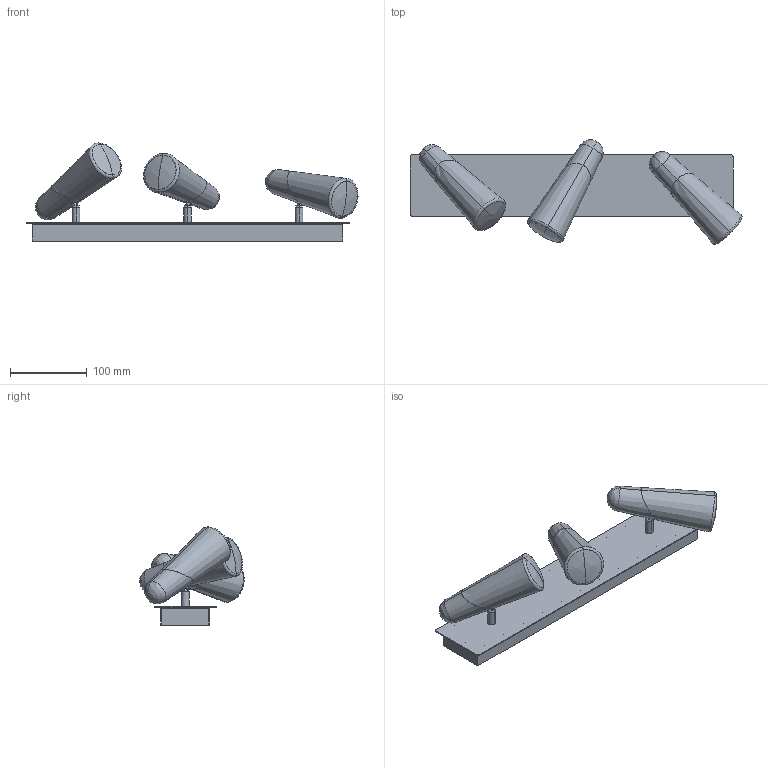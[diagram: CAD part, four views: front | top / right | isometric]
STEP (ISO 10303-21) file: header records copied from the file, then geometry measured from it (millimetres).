
FILE_DESCRIPTION(/* description */ (''),/* implementation_level */ '2;1');
FILE_NAME(/* name */ 'C:\Users\FrancoSartori\Documents\FARO\01_En Proceso\00_LAO\03_Publicación\29044.stp',/* time_stamp */ '2021-10-04T13:09:53+02:00',/* author */ ('FrancoSartori'),/* organization */ (''),/* preprocessor_version */ 'ST-DEVELOPER v18.1',/* originating_system */ 'AutoCAD Mechanical',/* authorisation */ '');
FILE_SCHEMA (('AUTOMOTIVE_DESIGN { 1 0 10303 214 3 1 1 }'));
Length unit declared in the file: millimetre
Products named in the file (2): Product; 29043_ 29044_ - structure-609672-Export
Assembly tree (1 placements, depth 2):
  Product
    29043_ 29044_ - structure-609672-Export
Bounding box: 431.59 x 135.61 x 127.5 mm (x, y, z)
Volume: 685367.1 mm3; surface area: 240262.5 mm2
Topology: 18 solids, 18 shells, 251 faces, 521 edges, 305 vertices
Faces by surface type: plane 126, cylinder 89, bspline 12, cone 12, sphere 6, torus 6
Entity records: 7441 total; most frequent: CARTESIAN_POINT 2100, DIRECTION 1136, ORIENTED_EDGE 1042, EDGE_CURVE 521, AXIS2_PLACEMENT_3D 427, VERTEX_POINT 305, LINE 282, VECTOR 282
